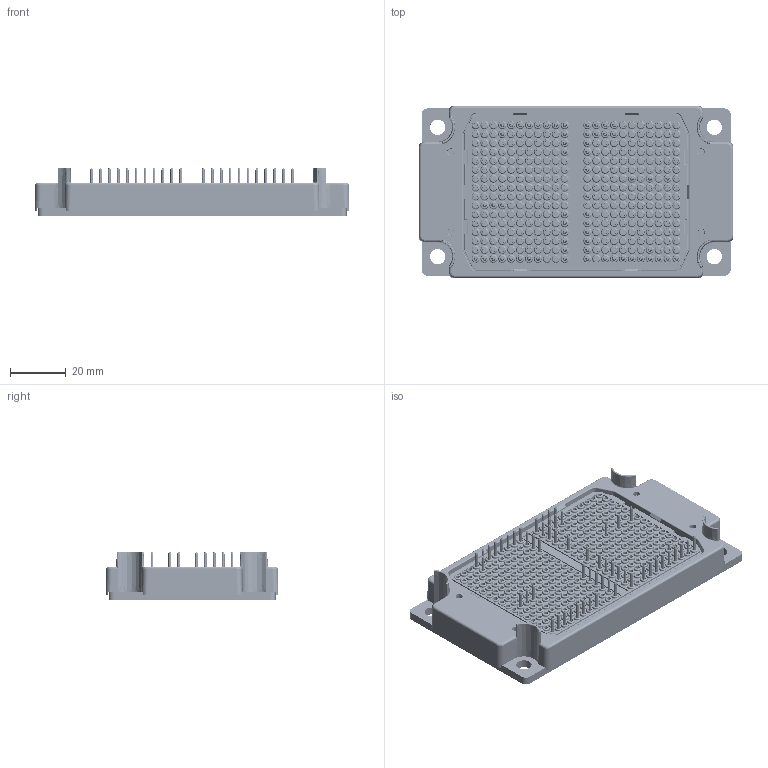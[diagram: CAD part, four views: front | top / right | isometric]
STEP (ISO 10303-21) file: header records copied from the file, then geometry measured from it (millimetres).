
FILE_DESCRIPTION((''),'2;1');
FILE_NAME('ACP-3S_AMG300L12P4H3RA_ALL_V01_ASM','2024-06-03T16:57:53',('yanbing.guo'),(''),'CREO PARAMETRIC BY PTC INC, 2022073','CREO PARAMETRIC BY PTC INC, 2022073','');
FILE_SCHEMA(('CONFIG_CONTROL_DESIGN','SHAPE_APPEARANCE_LAYERS_GROUPS'));
Products named in the file (6): 001; M1317P4CQ001__ACP-0001; M1409P4CQ001__ACP-0001; AMG300L12P4H3RA-HOUSING_ASM; M1006F2AX001__ACF-0001; ACP-3S_AMG300L12P4H3RA_ALL_V01_ASM
Assembly tree (64 placements, depth 3):
  ACP-3S_AMG300L12P4H3RA_ALL_V01_ASM
    AMG300L12P4H3RA-HOUSING_ASM
      001
      M1317P4CQ001__ACP-0001
      M1409P4CQ001__ACP-0001
    M1006F2AX001__ACF-0001  x60
Bounding box: 113 x 62 x 17.3 mm (x, y, z)
Volume: 40021.9 mm3; surface area: 43412.6 mm2
Topology: 63 solids, 63 shells, 10395 faces, 25464 edges, 15119 vertices
Faces by surface type: cone 3724, plane 3524, torus 1608, cylinder 948, bspline 536, sphere 28, extrusion 27
Entity records: 238304 total; most frequent: CARTESIAN_POINT 53188, DIRECTION 42206, ORIENTED_EDGE 36688, EDGE_CURVE 18344, AXIS2_PLACEMENT_3D 17634, VERTEX_POINT 10989, CIRCLE 9912, EDGE_LOOP 8831
